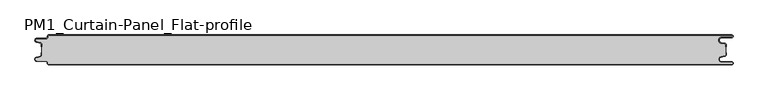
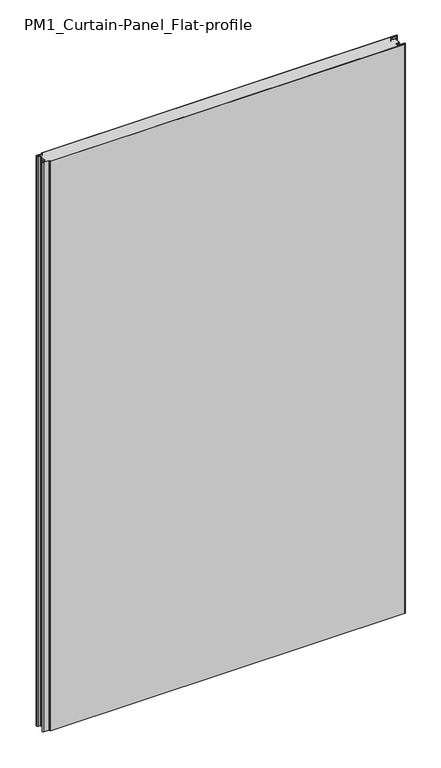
"""IFC4 building model written with IfcOpenShell, lengths in millimetres: plate geometry, PM1_Curtain-Panel_Flat-profile : ACH_PM1_Stone-wool-Panel_50M."""

from ifc_helpers import new_model, si_unit, point, frame_2d, origin, origin_with_axes, place, context, project, spatial, polyline, circle_curve, trimmed, segment, composite_curve, outline, extrude, source, transform, mapped, element, save


def pm1_curtain_panel_flat_profile_6b683dde(model_context):
    return source(origin(), model_context, "Body", "SweptSolid", [
        extrude(outline(composite_curve([segment(polyline([(-562.4, 0.0), (583.1, 0.0)]), True, "CONTINUOUS"), segment(trimmed(circle_curve(frame_2d((583.1, -2.5)), 2.5), [point((583.1, 0.0))], [point((583.1, -5.0))], False, "CARTESIAN"), True, "CONTINUOUS"), segment(polyline([(583.1, -5.0), (566.1, -5.0)]), True, "CONTINUOUS"), segment(trimmed(circle_curve(frame_2d((566.1, -9.0)), 4.0), [point((566.1, -5.0))], [point((565.4054075, -12.939231))], True, "CARTESIAN"), True, "CONTINUOUS"), segment(polyline([(565.4054075, -12.939231), (571.8514851, -14.075848)]), True, "CONTINUOUS"), segment(trimmed(circle_curve(frame_2d((571.4, -16.636348)), 2.6), [point((571.8514851, -14.075848))], [point((574.0, -16.636348))], False, "CARTESIAN"), True, "CONTINUOUS"), segment(polyline([(574.0, -16.636348), (574.0, -20.0), (573.2, -20.0), (573.2, -16.636348)]), True, "CONTINUOUS"), segment(trimmed(circle_curve(frame_2d((571.4, -16.636348)), 1.8), [point((573.2, -16.636348))], [point((571.7125666, -14.863694))], True, "CARTESIAN"), True, "CONTINUOUS"), segment(polyline([(571.7125666, -14.863694), (565.266489, -13.7270771)]), True, "CONTINUOUS"), segment(trimmed(circle_curve(frame_2d((566.1, -9.0)), 4.8), [point((565.266489, -13.7270771))], [point((566.1, -4.2))], False, "CARTESIAN"), True, "CONTINUOUS"), segment(polyline([(566.1, -4.2), (583.1, -4.2)]), True, "CONTINUOUS"), segment(trimmed(circle_curve(frame_2d((583.1, -2.5)), 1.7), [point((583.1, -4.2))], [point((583.1, -0.8))], True, "CARTESIAN"), True, "CONTINUOUS"), segment(polyline([(583.1, -0.8), (-562.4, -0.8)]), True, "CONTINUOUS"), segment(trimmed(circle_curve(frame_2d((-562.4, -2.0)), 1.2), [point((-562.4, -0.8))], [point((-563.6, -2.0))], True, "CARTESIAN"), True, "CONTINUOUS"), segment(polyline([(-563.6, -2.0), (-563.6, -3.4)]), True, "CONTINUOUS"), segment(trimmed(circle_curve(frame_2d((-566.4, -3.4)), 2.8), [point((-563.6, -3.4))], [point((-566.4, -6.2))], False, "CARTESIAN"), True, "CONTINUOUS"), segment(polyline([(-566.4, -6.2), (-581.9, -6.2)]), True, "CONTINUOUS"), segment(trimmed(circle_curve(frame_2d((-581.9, -9.0)), 2.8), [point((-581.9, -6.2))], [point((-582.529863, -11.7282362))], True, "CARTESIAN"), True, "CONTINUOUS"), segment(polyline([(-582.529863, -11.7282362), (-576.370137, -13.150321)]), True, "CONTINUOUS"), segment(trimmed(circle_curve(frame_2d((-577.0, -15.878557)), 2.8), [point((-576.370137, -13.150321))], [point((-574.2, -15.878557))], False, "CARTESIAN"), True, "CONTINUOUS"), segment(polyline([(-574.2, -15.878557), (-574.2, -20.0), (-575.0, -20.0), (-575.0, -15.878557)]), True, "CONTINUOUS"), segment(trimmed(circle_curve(frame_2d((-577.0, -15.878557)), 2.0), [point((-575.0, -15.878557))], [point((-576.5500978, -13.9298169))], True, "CARTESIAN"), True, "CONTINUOUS"), segment(polyline([(-576.5500978, -13.9298169), (-582.7098239, -12.507732)]), True, "CONTINUOUS"), segment(trimmed(circle_curve(frame_2d((-581.9, -9.0)), 3.6), [point((-582.7098239, -12.507732))], [point((-581.9, -5.4))], False, "CARTESIAN"), True, "CONTINUOUS"), segment(polyline([(-581.9, -5.4), (-566.4, -5.4)]), True, "CONTINUOUS"), segment(trimmed(circle_curve(frame_2d((-566.4, -3.4)), 2.0), [point((-566.4, -5.4))], [point((-564.4, -3.4))], True, "CARTESIAN"), True, "CONTINUOUS"), segment(polyline([(-564.4, -3.4), (-564.4, -2.0)]), True, "CONTINUOUS"), segment(trimmed(circle_curve(frame_2d((-562.4, -2.0)), 2.0), [point((-564.4, -2.0))], [point((-562.4, 0.0))], False, "CARTESIAN"), True, "CONTINUOUS")], self_intersect=False)), origin_with_axes(), (0.0, 0.0, 1.0), 1945.7507136),
        extrude(outline(composite_curve([segment(polyline([(-574.2, -34.1214426), (-574.2, -15.8785573)]), True, "CONTINUOUS"), segment(trimmed(circle_curve(frame_2d((-577.0, -15.8785573)), 2.8), [point((-574.2, -15.8785573))], [point((-576.370137, -13.1503212))], True, "CARTESIAN"), True, "CONTINUOUS"), segment(polyline([(-576.370137, -13.1503212), (-582.5298631, -11.7282362)]), True, "CONTINUOUS"), segment(trimmed(circle_curve(frame_2d((-581.9, -9.0)), 2.8), [point((-582.5298631, -11.7282362))], [point((-581.9, -6.2))], False, "CARTESIAN"), True, "CONTINUOUS"), segment(polyline([(-581.9, -6.2), (-566.4000001, -6.2)]), True, "CONTINUOUS"), segment(trimmed(circle_curve(frame_2d((-566.4000001, -3.4)), 2.8), [point((-566.4000001, -6.2))], [point((-563.6000001, -3.4))], True, "CARTESIAN"), True, "CONTINUOUS"), segment(polyline([(-563.6000001, -3.4), (-563.6000001, -2.0)]), True, "CONTINUOUS"), segment(trimmed(circle_curve(frame_2d((-562.4000001, -2.0)), 1.2), [point((-563.6000001, -2.0))], [point((-562.4000001, -0.8))], False, "CARTESIAN"), True, "CONTINUOUS"), segment(polyline([(-562.4000001, -0.8), (583.1, -0.8)]), True, "CONTINUOUS"), segment(trimmed(circle_curve(frame_2d((583.1, -2.5)), 1.7), [point((583.1, -0.8))], [point((583.1, -4.2))], False, "CARTESIAN"), True, "CONTINUOUS"), segment(polyline([(583.1, -4.2), (566.1, -4.2)]), True, "CONTINUOUS"), segment(trimmed(circle_curve(frame_2d((566.1, -9.0)), 4.8), [point((566.1, -4.2))], [point((565.2664883, -13.7270771))], True, "CARTESIAN"), True, "CONTINUOUS"), segment(polyline([(565.2664883, -13.7270771), (571.7125668, -14.8636953)]), True, "CONTINUOUS"), segment(trimmed(circle_curve(frame_2d((571.4, -16.6363492)), 1.8), [point((571.7125668, -14.8636953))], [point((573.2, -16.6363492))], False, "CARTESIAN"), True, "CONTINUOUS"), segment(polyline([(573.2, -16.6363492), (573.2, -33.3636508)]), True, "CONTINUOUS"), segment(trimmed(circle_curve(frame_2d((571.4, -33.3636508)), 1.8), [point((573.2, -33.3636508))], [point((571.7125668, -35.1363047))], False, "CARTESIAN"), True, "CONTINUOUS"), segment(polyline([(571.7125668, -35.1363047), (565.2664883, -36.2729229)]), True, "CONTINUOUS"), segment(trimmed(circle_curve(frame_2d((566.1, -41.0)), 4.8), [point((565.2664883, -36.2729229))], [point((566.1, -45.8))], True, "CARTESIAN"), True, "CONTINUOUS"), segment(polyline([(566.1, -45.8), (583.1, -45.8)]), True, "CONTINUOUS"), segment(trimmed(circle_curve(frame_2d((583.1, -47.5)), 1.7), [point((583.1, -45.8))], [point((583.1, -49.2))], False, "CARTESIAN"), True, "CONTINUOUS"), segment(polyline([(583.1, -49.2), (-562.4000001, -49.2)]), True, "CONTINUOUS"), segment(trimmed(circle_curve(frame_2d((-562.4000001, -48.0)), 1.2), [point((-562.4000001, -49.2))], [point((-563.6000001, -48.0))], False, "CARTESIAN"), True, "CONTINUOUS"), segment(polyline([(-563.6000001, -48.0), (-563.6000001, -46.6)]), True, "CONTINUOUS"), segment(trimmed(circle_curve(frame_2d((-566.4000001, -46.6)), 2.8), [point((-563.6000001, -46.6))], [point((-566.4000001, -43.8))], True, "CARTESIAN"), True, "CONTINUOUS"), segment(polyline([(-566.4000001, -43.8), (-581.9, -43.8)]), True, "CONTINUOUS"), segment(trimmed(circle_curve(frame_2d((-581.9, -41.0)), 2.8), [point((-581.9, -43.8))], [point((-582.5298631, -38.2717638))], False, "CARTESIAN"), True, "CONTINUOUS"), segment(polyline([(-582.5298631, -38.2717638), (-576.370137, -36.8496788)]), True, "CONTINUOUS"), segment(trimmed(circle_curve(frame_2d((-577.0, -34.1214426)), 2.8), [point((-576.370137, -36.8496788))], [point((-574.2, -34.1214426))], True, "CARTESIAN"), True, "CONTINUOUS")], self_intersect=False)), origin_with_axes(), (0.0, 0.0, 1.0), 1945.7507136),
        extrude(outline(composite_curve([segment(polyline([(583.1, -50.0), (-562.4, -50.0)]), True, "CONTINUOUS"), segment(trimmed(circle_curve(frame_2d((-562.4, -48.0)), 2.0), [point((-562.4, -50.0))], [point((-564.4, -48.0))], False, "CARTESIAN"), True, "CONTINUOUS"), segment(polyline([(-564.4, -48.0), (-564.4, -46.6)]), True, "CONTINUOUS"), segment(trimmed(circle_curve(frame_2d((-566.4, -46.6)), 2.0), [point((-564.4, -46.6))], [point((-566.4, -44.6))], True, "CARTESIAN"), True, "CONTINUOUS"), segment(polyline([(-566.4, -44.6), (-581.9, -44.6)]), True, "CONTINUOUS"), segment(trimmed(circle_curve(frame_2d((-581.9, -41.0)), 3.6), [point((-581.9, -44.6))], [point((-582.7098239, -37.4922678))], False, "CARTESIAN"), True, "CONTINUOUS"), segment(polyline([(-582.7098239, -37.4922678), (-576.5500979, -36.070183)]), True, "CONTINUOUS"), segment(trimmed(circle_curve(frame_2d((-577.0, -34.121443)), 2.0), [point((-576.5500979, -36.070183))], [point((-575.0, -34.121443))], True, "CARTESIAN"), True, "CONTINUOUS"), segment(polyline([(-575.0, -34.121443), (-575.0, -30.0), (-574.2, -30.0), (-574.2, -34.121443)]), True, "CONTINUOUS"), segment(trimmed(circle_curve(frame_2d((-577.0, -34.121443)), 2.8), [point((-574.2, -34.121443))], [point((-576.370137, -36.8496792))], False, "CARTESIAN"), True, "CONTINUOUS"), segment(polyline([(-576.370137, -36.8496792), (-582.529863, -38.271764)]), True, "CONTINUOUS"), segment(trimmed(circle_curve(frame_2d((-581.9, -41.0)), 2.8), [point((-582.529863, -38.271764))], [point((-581.9, -43.8))], True, "CARTESIAN"), True, "CONTINUOUS"), segment(polyline([(-581.9, -43.8), (-566.4, -43.8)]), True, "CONTINUOUS"), segment(trimmed(circle_curve(frame_2d((-566.4, -46.6)), 2.8), [point((-566.4, -43.8))], [point((-563.6, -46.6))], False, "CARTESIAN"), True, "CONTINUOUS"), segment(polyline([(-563.6, -46.6), (-563.6, -48.0)]), True, "CONTINUOUS"), segment(trimmed(circle_curve(frame_2d((-562.4, -48.0)), 1.2), [point((-563.6, -48.0))], [point((-562.4, -49.2))], True, "CARTESIAN"), True, "CONTINUOUS"), segment(polyline([(-562.4, -49.2), (583.1, -49.2)]), True, "CONTINUOUS"), segment(trimmed(circle_curve(frame_2d((583.1, -47.5)), 1.7), [point((583.1, -49.2))], [point((583.1, -45.8))], True, "CARTESIAN"), True, "CONTINUOUS"), segment(polyline([(583.1, -45.8), (566.1, -45.8)]), True, "CONTINUOUS"), segment(trimmed(circle_curve(frame_2d((566.1, -41.0)), 4.8), [point((566.1, -45.8))], [point((565.266489, -36.2729227))], False, "CARTESIAN"), True, "CONTINUOUS"), segment(polyline([(565.266489, -36.2729227), (571.7125666, -35.1363058)]), True, "CONTINUOUS"), segment(trimmed(circle_curve(frame_2d((571.4, -33.363652)), 1.8), [point((571.7125666, -35.1363058))], [point((573.2, -33.363652))], True, "CARTESIAN"), True, "CONTINUOUS"), segment(polyline([(573.2, -33.363652), (573.2, -30.0), (574.0, -30.0), (574.0, -33.363652)]), True, "CONTINUOUS"), segment(trimmed(circle_curve(frame_2d((571.4, -33.363652)), 2.6), [point((574.0, -33.363652))], [point((571.8514851, -35.9241522))], False, "CARTESIAN"), True, "CONTINUOUS"), segment(polyline([(571.8514851, -35.9241522), (565.4054075, -37.0607691)]), True, "CONTINUOUS"), segment(trimmed(circle_curve(frame_2d((566.1, -41.0)), 4.0), [point((565.4054075, -37.0607691))], [point((566.1, -45.0))], True, "CARTESIAN"), True, "CONTINUOUS"), segment(polyline([(566.1, -45.0), (583.1, -45.0)]), True, "CONTINUOUS"), segment(trimmed(circle_curve(frame_2d((583.1, -47.5)), 2.5), [point((583.1, -45.0))], [point((583.1, -50.0))], False, "CARTESIAN"), True, "CONTINUOUS")], self_intersect=False)), origin_with_axes(), (0.0, 0.0, 1.0), 1945.7507136),
    ])


if __name__ == "__main__":
    model = new_model("IFC4")
    model_context = context("Model", 3, world=origin())
    ifc_project = project(units=[si_unit("LENGTHUNIT", "METRE", prefix="MILLI")], contexts=[model_context])
    site = spatial("IfcSite", under=ifc_project)
    building = spatial("IfcBuilding", under=site)
    placement = place(None, origin())
    pm1_curtain_panel_flat_profile_shape = pm1_curtain_panel_flat_profile_6b683dde(model_context)
    element("IfcPlate", 1, ObjectType="PM1_Curtain-Panel_Flat-profile : ACH_PM1_Stone-wool-Panel_50M", at=placement, inside=building, context=model_context, shape_type="MappedRepresentation", body=[
        mapped(pm1_curtain_panel_flat_profile_shape, transform((0.0, 0.0, 0.0), x_axis=(1.0, 0.0, 0.0), y_axis=(0.0, 1.0, 0.0), z_axis=(0.0, 0.0, 1.0))),
    ])
    save(model, "model.ifc")
